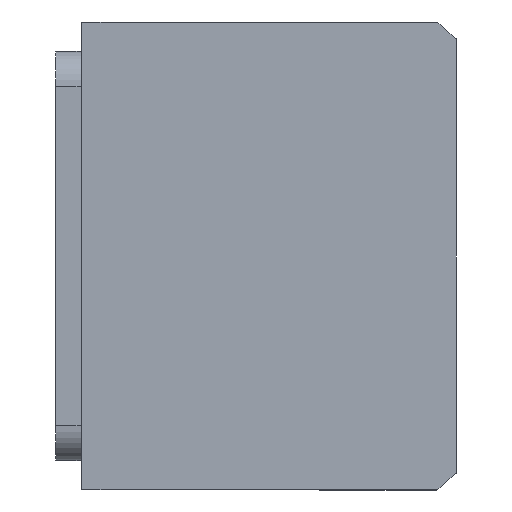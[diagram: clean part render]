
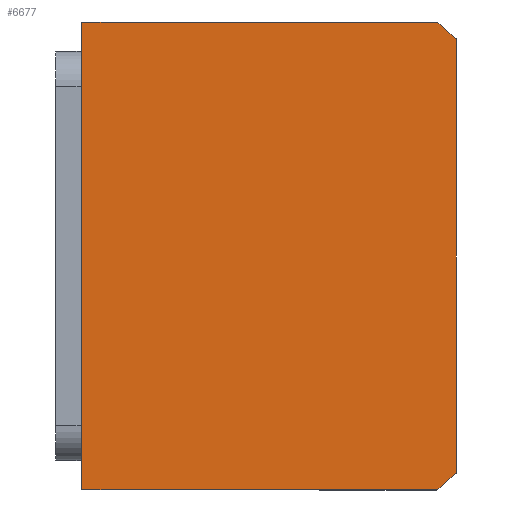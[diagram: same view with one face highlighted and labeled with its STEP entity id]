
A CAD part, front view. The second image highlights one B-rep face of the part: STEP entity #6677.
In plain terms, the highlighted planar face has unit normal (0, -1, 0) as drawn and (0, 0, -1) by its records, which use the part's own axes.
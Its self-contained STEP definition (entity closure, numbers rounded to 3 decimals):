
#1494 = VERTEX_POINT ( 'NONE', #12126 ) ;
#1503 = CARTESIAN_POINT ( 'NONE',  ( 40., -11.507, 0. ) ) ;
#1673 = VERTEX_POINT ( 'NONE', #2920 ) ;
#1768 = CIRCLE ( 'NONE', #6144, 51. ) ;
#2525 = VECTOR ( 'NONE', #8933, 1000. ) ;
#2599 = EDGE_CURVE ( 'NONE', #10184, #1673, #4360, .T. ) ;
#2639 = PLANE ( 'NONE',  #8240 ) ;
#2920 = CARTESIAN_POINT ( 'NONE',  ( -40., -72.145, 0. ) ) ;
#3334 = ORIENTED_EDGE ( 'NONE', *, *, #12564, .F. ) ;
#3377 = CARTESIAN_POINT ( 'NONE',  ( 40., -72.145, 0. ) ) ;
#3696 = LINE ( 'NONE', #13159, #4011 ) ;
#3741 = VERTEX_POINT ( 'NONE', #11942 ) ;
#3793 = DIRECTION ( 'NONE',  ( 0., 0., 1. ) ) ;
#3836 = LINE ( 'NONE', #1503, #6703 ) ;
#3837 = DIRECTION ( 'NONE',  ( 0., 0., 1. ) ) ;
#3885 = EDGE_LOOP ( 'NONE', ( #3334, #10517, #7041, #5672, #13727, #4948 ) ) ;
#4011 = VECTOR ( 'NONE', #4627, 1000. ) ;
#4360 = LINE ( 'NONE', #4867, #7228 ) ;
#4458 = EDGE_CURVE ( 'NONE', #1494, #3741, #5702, .T. ) ;
#4627 = DIRECTION ( 'NONE',  ( -1., 0., 0. ) ) ;
#4867 = CARTESIAN_POINT ( 'NONE',  ( -40., -11.507, 0. ) ) ;
#4948 = ORIENTED_EDGE ( 'NONE', *, *, #4458, .F. ) ;
#5088 = EDGE_CURVE ( 'NONE', #8871, #11311, #3836, .T. ) ;
#5672 = ORIENTED_EDGE ( 'NONE', *, *, #5088, .F. ) ;
#5702 = LINE ( 'NONE', #12015, #2525 ) ;
#6144 = AXIS2_PLACEMENT_3D ( 'NONE', #10183, #3793, #11255 ) ;
#6677 = ADVANCED_FACE ( 'NONE', ( #6723 ), #2639, .F. ) ;
#6703 = VECTOR ( 'NONE', #7867, 1000. ) ;
#6723 = FACE_OUTER_BOUND ( 'NONE', #3885, .T. ) ;
#6791 = CIRCLE ( 'NONE', #6874, 51. ) ;
#6874 = AXIS2_PLACEMENT_3D ( 'NONE', #10232, #3837, #11289 ) ;
#7038 = DIRECTION ( 'NONE',  ( 1., 0., 0. ) ) ;
#7041 = ORIENTED_EDGE ( 'NONE', *, *, #7244, .F. ) ;
#7228 = VECTOR ( 'NONE', #11250, 1000. ) ;
#7244 = EDGE_CURVE ( 'NONE', #11311, #10184, #3696, .T. ) ;
#7867 = DIRECTION ( 'NONE',  ( 0., 1., 0. ) ) ;
#8240 = AXIS2_PLACEMENT_3D ( 'NONE', #11254, #13357, #7038 ) ;
#8649 = CARTESIAN_POINT ( 'NONE',  ( -40., -11.507, 0. ) ) ;
#8871 = VERTEX_POINT ( 'NONE', #3377 ) ;
#8933 = DIRECTION ( 'NONE',  ( 1., 0., 0. ) ) ;
#10183 = CARTESIAN_POINT ( 'NONE',  ( 0., -40.507, 0. ) ) ;
#10184 = VERTEX_POINT ( 'NONE', #8649 ) ;
#10232 = CARTESIAN_POINT ( 'NONE',  ( 0., -40.507, 0. ) ) ;
#10517 = ORIENTED_EDGE ( 'NONE', *, *, #2599, .F. ) ;
#11250 = DIRECTION ( 'NONE',  ( 0., -1., 0. ) ) ;
#11254 = CARTESIAN_POINT ( 'NONE',  ( 0., 0., 0. ) ) ;
#11255 = DIRECTION ( 'NONE',  ( 1., 0., 0. ) ) ;
#11289 = DIRECTION ( 'NONE',  ( 1., 0., 0. ) ) ;
#11311 = VERTEX_POINT ( 'NONE', #12752 ) ;
#11942 = CARTESIAN_POINT ( 'NONE',  ( 37.094, -75.507, 0. ) ) ;
#12015 = CARTESIAN_POINT ( 'NONE',  ( -40., -75.507, 0. ) ) ;
#12126 = CARTESIAN_POINT ( 'NONE',  ( -37.094, -75.507, 0. ) ) ;
#12564 = EDGE_CURVE ( 'NONE', #1673, #1494, #1768, .T. ) ;
#12630 = EDGE_CURVE ( 'NONE', #3741, #8871, #6791, .T. ) ;
#12752 = CARTESIAN_POINT ( 'NONE',  ( 40., -11.507, 0. ) ) ;
#13159 = CARTESIAN_POINT ( 'NONE',  ( -40., -11.507, 0. ) ) ;
#13357 = DIRECTION ( 'NONE',  ( 0., 0., 1. ) ) ;
#13727 = ORIENTED_EDGE ( 'NONE', *, *, #12630, .F. ) ;
